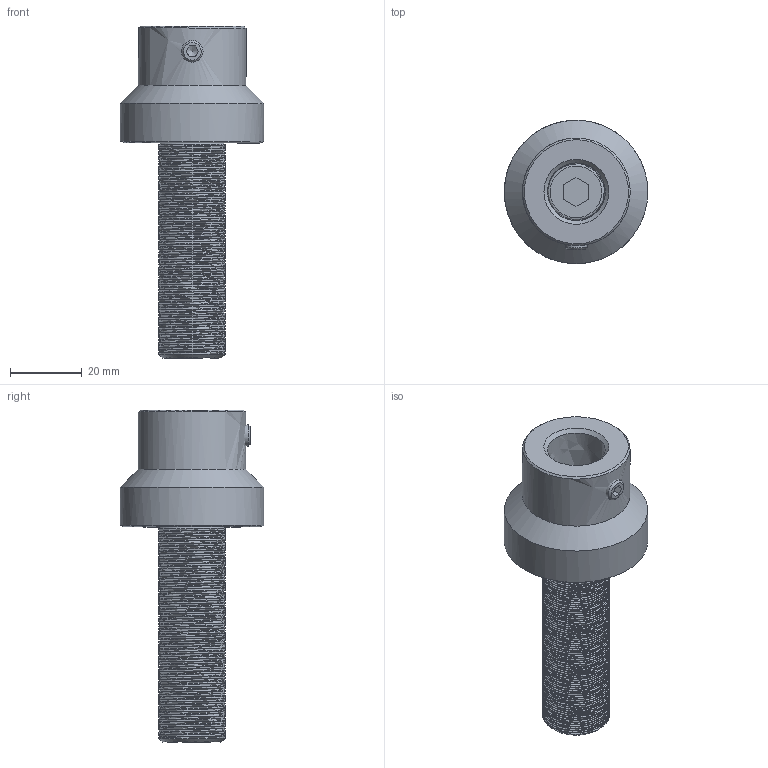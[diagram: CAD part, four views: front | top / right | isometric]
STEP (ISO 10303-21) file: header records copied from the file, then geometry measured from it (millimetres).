
FILE_DESCRIPTION( ('This file contains a STEP AP42 implementation' ,'as created by ZW3D STEP Interface translator.') ,'2;1' );
FILE_NAME( '3205438b_TW16AW19.stp' ,'16 3 3.1026 4', (''), ('ZWCAD Software Co.'), 'Version 1.0', 'ZW3D to STEP translator', '' );
FILE_SCHEMA( ('CONFIG_CONTROL_DESIGN') );
Length unit declared in the file: millimetre
Products named in the file (6): 0; 3205438b_TW16AW19; 3009099a_Adapter TW16AW; 3009100a_Bolzen AW19; DIN7984_10_9_m_10x20; DIN_EN_ISO_4028-m6x8-45h
Assembly tree (4 placements, depth 2):
  0
  3205438b_TW16AW19
    3009099a_Adapter TW16AW
    3009100a_Bolzen AW19
    DIN7984_10_9_m_10x20
    DIN_EN_ISO_4028-m6x8-45h
Bounding box: 40.04 x 40 x 92.55 mm (x, y, z)
Volume: 41637.5 mm3; surface area: 13557.3 mm2
Topology: 4 solids, 4 shells, 137 faces, 360 edges, 235 vertices
Faces by surface type: bspline 137
Entity records: 8793 total; most frequent: CARTESIAN_POINT 6568, ORIENTED_EDGE 716, EDGE_CURVE 358, VERTEX_POINT 235, B_SPLINE_CURVE_WITH_KNOTS 162, EDGE_LOOP 147, FACE_OUTER_BOUND 137, ADVANCED_FACE 137
